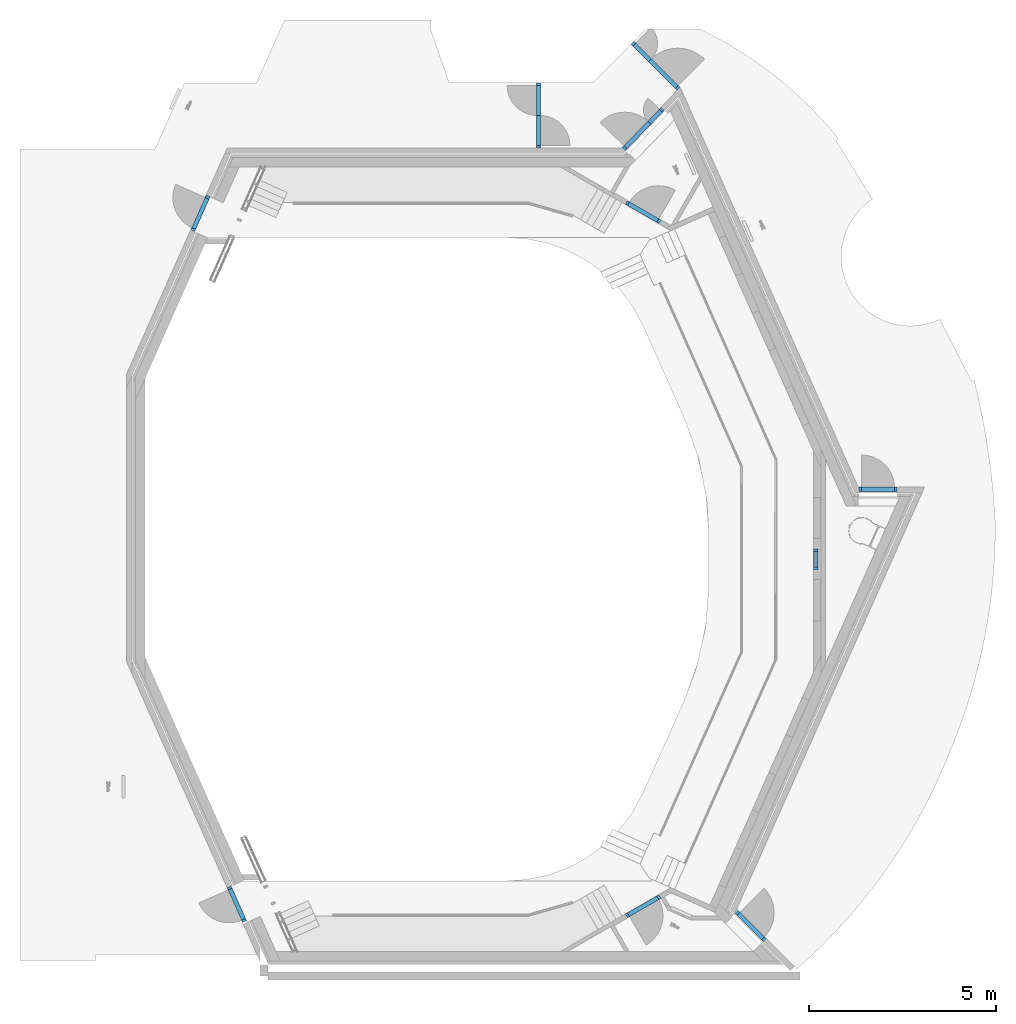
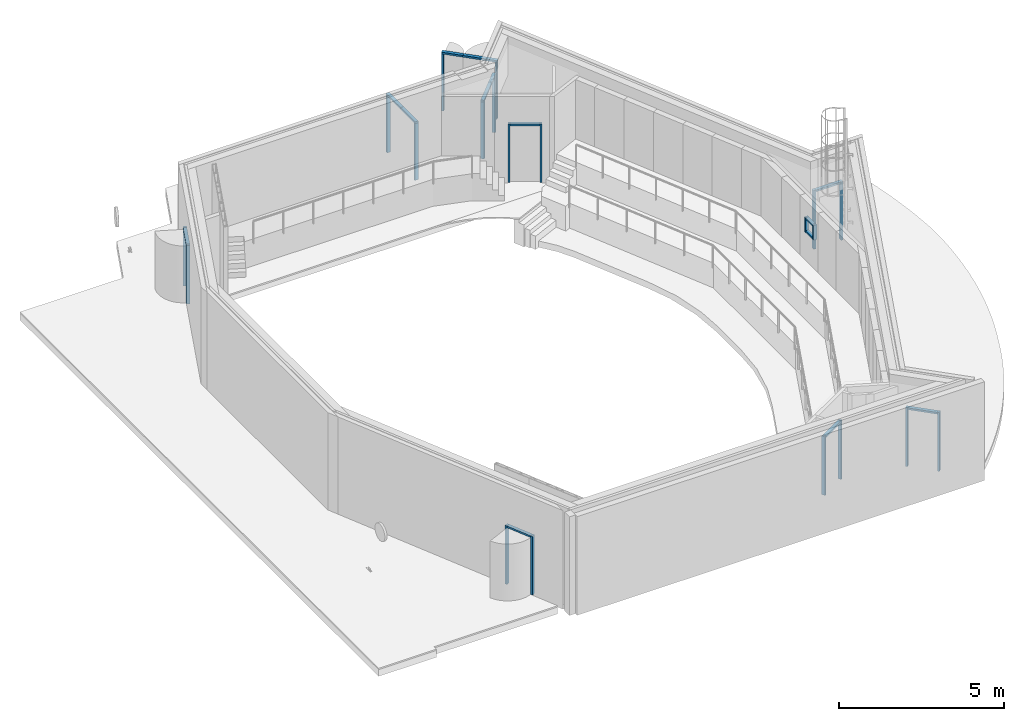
# One storey, part 3 of 16: 34 members, 10 elements without a shape of their own.
"""IFC2X3 building model written with IfcOpenShell, lengths in millimetres."""

from ifc_helpers import new_model, entity, si_unit, converted_unit, derived_unit, direction, frame, origin, origin_2d_with_axis, place, context, subcontext, project, spatial, rectangle, extrude, source, transform, mapped, material, type_object, type_shapes, element, aggregate, save


model = new_model("IFC2X3")

# Units and contexts
model_context = context("Model", 3, precision=0.01, world=origin(), true_north=direction((6.123031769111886e-17, 1.0)))
body_context = subcontext(model_context, "Body", "Model", "MODEL_VIEW")
ifc_project = project(units=[si_unit("LENGTHUNIT", "METRE", prefix="MILLI"), si_unit("AREAUNIT", "SQUARE_METRE"), si_unit("VOLUMEUNIT", "CUBIC_METRE"), converted_unit("PLANEANGLEUNIT", "DEGREE", entity("IfcRatioMeasure", 0.017453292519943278), si_unit("PLANEANGLEUNIT", "RADIAN"), dimensions=[0, 0, 0, 0, 0, 0, 0]), si_unit("MASSUNIT", "GRAM", prefix="KILO"), derived_unit("MASSDENSITYUNIT", [(si_unit("MASSUNIT", "GRAM", prefix="KILO"), 1), (si_unit("LENGTHUNIT", "METRE"), -3)]), derived_unit("MOMENTOFINERTIAUNIT", [(si_unit("LENGTHUNIT", "METRE"), 4)]), si_unit("TIMEUNIT", "SECOND"), si_unit("FREQUENCYUNIT", "HERTZ"), si_unit("THERMODYNAMICTEMPERATUREUNIT", "DEGREE_CELSIUS"), derived_unit("THERMALTRANSMITTANCEUNIT", [(si_unit("MASSUNIT", "GRAM", prefix="KILO"), 1), (si_unit("THERMODYNAMICTEMPERATUREUNIT", "KELVIN"), -1), (si_unit("TIMEUNIT", "SECOND"), -3)]), derived_unit("VOLUMETRICFLOWRATEUNIT", [(si_unit("LENGTHUNIT", "METRE"), 3), (si_unit("TIMEUNIT", "SECOND"), -1)]), derived_unit("MASSFLOWRATEUNIT", [(si_unit("MASSUNIT", "GRAM", prefix="KILO"), 1), (si_unit("TIMEUNIT", "SECOND"), -1)]), derived_unit("ROTATIONALFREQUENCYUNIT", [(si_unit("TIMEUNIT", "SECOND"), -1)]), si_unit("ELECTRICCURRENTUNIT", "AMPERE"), si_unit("ELECTRICVOLTAGEUNIT", "VOLT"), si_unit("POWERUNIT", "WATT"), si_unit("FORCEUNIT", "NEWTON", prefix="KILO"), si_unit("ILLUMINANCEUNIT", "LUX"), si_unit("LUMINOUSFLUXUNIT", "LUMEN"), si_unit("LUMINOUSINTENSITYUNIT", "CANDELA"), derived_unit("USERDEFINED", [(si_unit("MASSUNIT", "GRAM", prefix="KILO"), -1), (si_unit("LENGTHUNIT", "METRE"), -2), (si_unit("TIMEUNIT", "SECOND"), 3), (si_unit("LUMINOUSFLUXUNIT", "LUMEN"), 1)]), derived_unit("SOUNDPOWERUNIT", [(si_unit("MASSUNIT", "GRAM", prefix="KILO"), 1), (si_unit("LENGTHUNIT", "METRE"), 2), (si_unit("TIMEUNIT", "SECOND"), -3)]), derived_unit("SOUNDPRESSUREUNIT", [(si_unit("MASSUNIT", "GRAM", prefix="KILO"), 1), (si_unit("LENGTHUNIT", "METRE"), -1), (si_unit("TIMEUNIT", "SECOND"), -2)]), derived_unit("LINEARVELOCITYUNIT", [(si_unit("LENGTHUNIT", "METRE"), 1), (si_unit("TIMEUNIT", "SECOND"), -1)]), si_unit("PRESSUREUNIT", "PASCAL"), derived_unit("USERDEFINED", [(si_unit("LENGTHUNIT", "METRE"), -2), (si_unit("MASSUNIT", "GRAM", prefix="KILO"), 1), (si_unit("TIMEUNIT", "SECOND"), -2)]), derived_unit("LINEARFORCEUNIT", [(si_unit("MASSUNIT", "GRAM", prefix="KILO"), 1), (si_unit("LENGTHUNIT", "METRE"), 1), (si_unit("TIMEUNIT", "SECOND"), -2), (si_unit("LENGTHUNIT", "METRE"), -1)]), derived_unit("PLANARFORCEUNIT", [(si_unit("MASSUNIT", "GRAM", prefix="KILO"), 1), (si_unit("LENGTHUNIT", "METRE"), 1), (si_unit("TIMEUNIT", "SECOND"), -2), (si_unit("LENGTHUNIT", "METRE"), -2)])], contexts=[model_context])

# Site, building, storey
site_placement = place(None, frame((-10000.0, -10000.0, 0.0)))
site = spatial("IfcSite", under=ifc_project, at=site_placement, Name="Default", CompositionType="ELEMENT")
building_placement = place(site_placement, origin())
building = spatial("IfcBuilding", under=site, at=building_placement, CompositionType="ELEMENT")
storey_placement = place(building_placement, frame((0.0, 0.0, 9000.0)))
storey = spatial("IfcBuildingStorey", under=building, at=storey_placement, Name="02 2e verdieping", CompositionType="ELEMENT", Elevation=9000.0)

# Curtain wall, member
curtain_wall_type = type_object("IfcCurtainWallType", Name="Curtain Wall:NLRS_32_CWA_houten binnenkozijnen ts90_ags", PredefinedType="NOTDEFINED")
curtain_wall_1_placement = place(storey_placement, frame((0.0, 0.0, -9000.0)))
curtain_wall_1 = element("IfcCurtainWall", 1, at=curtain_wall_1_placement, inside=storey, type_object=curtain_wall_type, Name="Curtain Wall:NLRS_32_CWA_houten binnenkozijnen ts90_ags", ObjectType="Curtain Wall:NLRS_32_CWA_houten binnenkozijnen ts90_ags")
ifc_material = material(Name="<Unnamed>")
member_type_1 = type_object("IfcMemberType", Name="Rectangular Mullion:NLRS_32_CWM_hout 114x67_ags", PredefinedType="MULLION", material=ifc_material)
shared_shape_1 = source(origin(), body_context, "Body", "SweptSolid", [
    extrude(rectangle(XDim=114.0, YDim=67.0, at=origin_2d_with_axis()), frame((-33.5, 0.0, -2103.0), z_axis=(0.0, 0.0, 1.0), x_axis=(0.0, -1.0, 0.0)), (0.0, 0.0, 1.0), 2103.0),
])
type_shapes(member_type_1, [shared_shape_1])
member_1_placement = place(curtain_wall_1_placement, frame((39644.82794933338, 50705.0551990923, 9000.0), z_axis=(0.0, 0.0, -1.0), x_axis=(0.6943722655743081, 0.7196159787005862, 0.0)))
member_1 = element("IfcMember", 2, at=member_1_placement, type_object=member_type_1, material=ifc_material, Name="Rectangular Mullion:NLRS_32_CWM_hout 114x67_ags", ObjectType="Rectangular Mullion:NLRS_32_CWM_hout 114x67_ags", context=body_context, shape_type="MappedRepresentation", body=[
    mapped(shared_shape_1, transform((0.0, 0.0, 0.0), scale=1.0)),
])

curtain_wall_2_placement = place(storey_placement, frame((0.0, 0.0, -9000.0)))
curtain_wall_2 = element("IfcCurtainWall", 3, at=curtain_wall_2_placement, inside=storey, type_object=curtain_wall_type, Name="Curtain Wall:NLRS_32_CWA_houten binnenkozijnen ts90_ags", ObjectType="Curtain Wall:NLRS_32_CWA_houten binnenkozijnen ts90_ags")
member_2_placement = place(curtain_wall_2_placement, frame((40070.39875799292, 51245.732878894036, 9000.0), z_axis=(0.0, 0.0, -1.0), x_axis=(0.7071067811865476, -0.7071067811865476, 0.0)))
member_2 = element("IfcMember", 4, at=member_2_placement, type_object=member_type_1, material=ifc_material, Name="Rectangular Mullion:NLRS_32_CWM_hout 114x67_ags", ObjectType="Rectangular Mullion:NLRS_32_CWM_hout 114x67_ags", context=body_context, shape_type="MappedRepresentation", body=[
    mapped(shared_shape_1, transform((0.0, 0.0, 0.0), scale=1.0)),
])

curtain_wall_3_placement = place(storey_placement, frame((0.0, 0.0, -9000.0)))
curtain_wall_3 = element("IfcCurtainWall", 5, at=curtain_wall_3_placement, inside=storey, type_object=curtain_wall_type, Name="Curtain Wall:NLRS_32_CWA_houten binnenkozijnen ts90_ags", ObjectType="Curtain Wall:NLRS_32_CWA_houten binnenkozijnen ts90_ags")
member_3_placement = place(curtain_wall_3_placement, frame((36317.06459566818, 49652.0, 9000.0), z_axis=(0.0, 0.0, -1.0), x_axis=(0.0, -1.0, 0.0)))
member_3 = element("IfcMember", 6, at=member_3_placement, type_object=member_type_1, material=ifc_material, Name="Rectangular Mullion:NLRS_32_CWM_hout 114x67_ags", ObjectType="Rectangular Mullion:NLRS_32_CWM_hout 114x67_ags", context=body_context, shape_type="MappedRepresentation", body=[
    mapped(shared_shape_1, transform((0.0, 0.0, 0.0), scale=1.0)),
])

# Member
member_type_2 = type_object("IfcMemberType", Name="Rectangular Mullion:NLRS_32_CWM_hout 114x67_ags", PredefinedType="MULLION", material=ifc_material)
shared_shape_2 = source(origin(), body_context, "Body", "SweptSolid", [
    extrude(rectangle(XDim=114.0, YDim=67.0, at=origin_2d_with_axis()), frame((-33.5, 0.0, -2103.0), z_axis=(0.0, 0.0, 1.0), x_axis=(0.0, -1.0, 0.0)), (0.0, 0.0, 1.0), 2103.0000000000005),
])
type_shapes(member_type_2, [shared_shape_2])
member_4_placement = place(curtain_wall_1_placement, frame((38603.43549617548, 49625.80320913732, 11103.0), z_axis=(0.0, 0.0, 1.0), x_axis=(-0.6943722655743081, -0.7196159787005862, 0.0)))
member_4 = element("IfcMember", 7, at=member_4_placement, type_object=member_type_2, material=ifc_material, Name="Rectangular Mullion:NLRS_32_CWM_hout 114x67_ags", ObjectType="Rectangular Mullion:NLRS_32_CWM_hout 114x67_ags", context=body_context, shape_type="MappedRepresentation", body=[
    mapped(shared_shape_2, transform((0.0, 0.0, 0.0), scale=1.0)),
])

member_5_placement = place(curtain_wall_2_placement, frame((38836.03789821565, 52480.09373867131, 11103.0), z_axis=(0.0, 0.0, 1.0), x_axis=(-0.7071067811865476, 0.7071067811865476, 0.0)))
member_5 = element("IfcMember", 8, at=member_5_placement, type_object=member_type_2, material=ifc_material, Name="Rectangular Mullion:NLRS_32_CWM_hout 114x67_ags", ObjectType="Rectangular Mullion:NLRS_32_CWM_hout 114x67_ags", context=body_context, shape_type="MappedRepresentation", body=[
    mapped(shared_shape_2, transform((0.0, 0.0, 0.0), scale=1.0)),
])

member_6_placement = place(curtain_wall_3_placement, frame((36317.06459566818, 51401.995249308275, 11103.0), z_axis=(0.0, 0.0, 1.0), x_axis=(0.0, 1.0, 0.0)))
member_6 = element("IfcMember", 9, at=member_6_placement, type_object=member_type_2, material=ifc_material, Name="Rectangular Mullion:NLRS_32_CWM_hout 114x67_ags", ObjectType="Rectangular Mullion:NLRS_32_CWM_hout 114x67_ags", context=body_context, shape_type="MappedRepresentation", body=[
    mapped(shared_shape_2, transform((0.0, 0.0, 0.0), scale=1.0)),
])

# Curtain wall, member
curtain_wall_4_placement = place(storey_placement, frame((0.0, 0.0, -9000.0)))
curtain_wall_4 = element("IfcCurtainWall", 10, at=curtain_wall_4_placement, inside=storey, type_object=curtain_wall_type, Name="Curtain Wall:NLRS_32_CWA_houten binnenkozijnen ts90_ags", ObjectType="Curtain Wall:NLRS_32_CWA_houten binnenkozijnen ts90_ags")
member_type_3 = type_object("IfcMemberType", Name="Rectangular Mullion:NLRS_32_CWM_hout 114x67_ags", PredefinedType="MULLION", material=ifc_material)
shared_shape_3 = source(origin(), body_context, "Body", "SweptSolid", [
    extrude(rectangle(XDim=114.0, YDim=67.0, at=origin_2d_with_axis()), frame((-33.5, 0.0, -2170.0), z_axis=(0.0, 0.0, 1.0), x_axis=(0.0, -1.0, 0.0)), (0.0, 0.0, 1.0), 2170.0),
])
type_shapes(member_type_3, [shared_shape_3])
member_7_placement = place(curtain_wall_4_placement, frame((42379.75236599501, 28438.24830376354, 9000.0), z_axis=(0.0, 0.0, -1.0), x_axis=(0.7071067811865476, -0.7071067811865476, 0.0)))
member_7 = element("IfcMember", 11, at=member_7_placement, type_object=member_type_3, material=ifc_material, Name="Rectangular Mullion:NLRS_32_CWM_hout 114x67_ags", ObjectType="Rectangular Mullion:NLRS_32_CWM_hout 114x67_ags", context=body_context, shape_type="MappedRepresentation", body=[
    mapped(shared_shape_3, transform((0.0, 0.0, 0.0), scale=1.0)),
])

curtain_wall_5_placement = place(storey_placement, frame((0.0, 0.0, -9000.0)))
curtain_wall_5 = element("IfcCurtainWall", 12, at=curtain_wall_5_placement, inside=storey, type_object=curtain_wall_type, Name="Curtain Wall:NLRS_32_CWA_houten binnenkozijnen ts90_ags", ObjectType="Curtain Wall:NLRS_32_CWA_houten binnenkozijnen ts90_ags")
member_8_placement = place(curtain_wall_5_placement, frame((45923.57361464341, 40510.97902798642, 9000.0), z_axis=(0.0, 0.0, -1.0), x_axis=(1.0, 0.0, 0.0)))
member_8 = element("IfcMember", 13, at=member_8_placement, type_object=member_type_3, material=ifc_material, Name="Rectangular Mullion:NLRS_32_CWM_hout 114x67_ags", ObjectType="Rectangular Mullion:NLRS_32_CWM_hout 114x67_ags", context=body_context, shape_type="MappedRepresentation", body=[
    mapped(shared_shape_3, transform((0.0, 0.0, 0.0), scale=1.0)),
])

curtain_wall_6_placement = place(storey_placement, frame((0.0, 0.0, -9000.0)))
curtain_wall_6 = element("IfcCurtainWall", 14, at=curtain_wall_6_placement, inside=storey, type_object=curtain_wall_type, Name="Curtain Wall:NLRS_32_CWA_houten binnenkozijnen ts90_ags", ObjectType="Curtain Wall:NLRS_32_CWA_houten binnenkozijnen ts90_ags")
member_9_placement = place(curtain_wall_6_placement, frame((27464.487671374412, 48370.242257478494, 9000.0), z_axis=(0.0, 0.0, -1.0), x_axis=(0.40673664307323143, 0.9135454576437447, 0.0)))
member_9 = element("IfcMember", 15, at=member_9_placement, type_object=member_type_3, material=ifc_material, Name="Rectangular Mullion:NLRS_32_CWM_hout 114x67_ags", ObjectType="Rectangular Mullion:NLRS_32_CWM_hout 114x67_ags", context=body_context, shape_type="MappedRepresentation", body=[
    mapped(shared_shape_3, transform((0.0, 0.0, 0.0), scale=1.0)),
])

curtain_wall_7_placement = place(storey_placement, frame((0.0, 0.0, -9000.0)))
curtain_wall_7 = element("IfcCurtainWall", 16, at=curtain_wall_7_placement, inside=storey, type_object=curtain_wall_type, Name="Curtain Wall:NLRS_32_CWA_houten binnenkozijnen ts90_ags", ObjectType="Curtain Wall:NLRS_32_CWA_houten binnenkozijnen ts90_ags")
member_10_placement = place(curtain_wall_7_placement, frame((28026.126135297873, 29861.112561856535, 9000.0), z_axis=(0.0, 0.0, -1.0), x_axis=(-0.4067366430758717, 0.9135454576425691, 0.0)))
member_10 = element("IfcMember", 17, at=member_10_placement, type_object=member_type_3, material=ifc_material, Name="Rectangular Mullion:NLRS_32_CWM_hout 114x67_ags", ObjectType="Rectangular Mullion:NLRS_32_CWM_hout 114x67_ags", context=body_context, shape_type="MappedRepresentation", body=[
    mapped(shared_shape_3, transform((0.0, 0.0, 0.0), scale=1.0)),
])

curtain_wall_8_placement = place(storey_placement, frame((0.0, 0.0, -9000.0)))
curtain_wall_8 = element("IfcCurtainWall", 18, at=curtain_wall_8_placement, inside=storey, type_object=curtain_wall_type, Name="Curtain Wall:NLRS_32_CWA_houten binnenkozijnen ts90_ags", ObjectType="Curtain Wall:NLRS_32_CWA_houten binnenkozijnen ts90_ags")
member_11_placement = place(curtain_wall_8_placement, frame((39569.80613687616, 47677.671713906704, 9000.0), z_axis=(0.0, 0.0, -1.0), x_axis=(0.8660254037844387, -0.5000000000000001, 0.0)))
member_11 = element("IfcMember", 19, at=member_11_placement, type_object=member_type_3, material=ifc_material, Name="Rectangular Mullion:NLRS_32_CWM_hout 114x67_ags", ObjectType="Rectangular Mullion:NLRS_32_CWM_hout 114x67_ags", context=body_context, shape_type="MappedRepresentation", body=[
    mapped(shared_shape_3, transform((0.0, 0.0, 0.0), scale=1.0)),
])

# Member
member_type_4 = type_object("IfcMemberType", Name="Rectangular Mullion:NLRS_32_CWM_hout 114x67_ags", PredefinedType="MULLION", material=ifc_material)
shared_shape_4 = source(origin(), body_context, "Body", "SweptSolid", [
    extrude(rectangle(XDim=114.0, YDim=67.0, at=origin_2d_with_axis()), frame((-33.5, 0.0, -2170.0), z_axis=(0.0, 0.0, 1.0), x_axis=(0.0, -1.0, 0.0)), (0.0, 0.0, 1.0), 2170.0000000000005),
])
type_shapes(member_type_4, [shared_shape_4])
member_12_placement = place(curtain_wall_4_placement, frame((41626.68364403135, 29191.317025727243, 11170.0), z_axis=(0.0, 0.0, 1.0), x_axis=(-0.7071067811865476, 0.7071067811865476, 0.0)))
member_12 = element("IfcMember", 20, at=member_12_placement, type_object=member_type_4, material=ifc_material, Name="Rectangular Mullion:NLRS_32_CWM_hout 114x67_ags", ObjectType="Rectangular Mullion:NLRS_32_CWM_hout 114x67_ags", context=body_context, shape_type="MappedRepresentation", body=[
    mapped(shared_shape_4, transform((0.0, 0.0, 0.0), scale=1.0)),
])

member_13_placement = place(curtain_wall_5_placement, frame((44903.57361464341, 40510.97902798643, 11170.0), z_axis=(0.0, 0.0, 1.0), x_axis=(-1.0, 0.0, 0.0)))
member_13 = element("IfcMember", 21, at=member_13_placement, type_object=member_type_4, material=ifc_material, Name="Rectangular Mullion:NLRS_32_CWM_hout 114x67_ags", ObjectType="Rectangular Mullion:NLRS_32_CWM_hout 114x67_ags", context=body_context, shape_type="MappedRepresentation", body=[
    mapped(shared_shape_4, transform((0.0, 0.0, 0.0), scale=1.0)),
])

member_14_placement = place(curtain_wall_6_placement, frame((27049.61629543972, 47438.42589068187, 11170.0), z_axis=(0.0, 0.0, 1.0), x_axis=(-0.40673664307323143, -0.9135454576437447, 0.0)))
member_14 = element("IfcMember", 22, at=member_14_placement, type_object=member_type_4, material=ifc_material, Name="Rectangular Mullion:NLRS_32_CWM_hout 114x67_ags", ObjectType="Rectangular Mullion:NLRS_32_CWM_hout 114x67_ags", context=body_context, shape_type="MappedRepresentation", body=[
    mapped(shared_shape_4, transform((0.0, 0.0, 0.0), scale=1.0)),
])

member_15_placement = place(curtain_wall_7_placement, frame((28440.99751123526, 28929.296195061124, 11170.0), z_axis=(0.0, 0.0, 1.0), x_axis=(0.4067366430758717, -0.9135454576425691, 0.0)))
member_15 = element("IfcMember", 23, at=member_15_placement, type_object=member_type_4, material=ifc_material, Name="Rectangular Mullion:NLRS_32_CWM_hout 114x67_ags", ObjectType="Rectangular Mullion:NLRS_32_CWM_hout 114x67_ags", context=body_context, shape_type="MappedRepresentation", body=[
    mapped(shared_shape_4, transform((0.0, 0.0, 0.0), scale=1.0)),
])

member_16_placement = place(curtain_wall_8_placement, frame((38669.13971694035, 48197.671713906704, 11170.0), z_axis=(0.0, 0.0, 1.0), x_axis=(-0.8660254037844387, 0.5000000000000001, 0.0)))
member_16 = element("IfcMember", 24, at=member_16_placement, type_object=member_type_4, material=ifc_material, Name="Rectangular Mullion:NLRS_32_CWM_hout 114x67_ags", ObjectType="Rectangular Mullion:NLRS_32_CWM_hout 114x67_ags", context=body_context, shape_type="MappedRepresentation", body=[
    mapped(shared_shape_4, transform((0.0, 0.0, 0.0), scale=1.0)),
])

# Curtain wall, members
curtain_wall_9_placement = place(storey_placement, frame((0.0, 0.0, -9000.0)))
curtain_wall_9 = element("IfcCurtainWall", 25, at=curtain_wall_9_placement, inside=storey, type_object=curtain_wall_type, Name="Curtain Wall:NLRS_32_CWA_houten binnenkozijnen ts90_ags", ObjectType="Curtain Wall:NLRS_32_CWA_houten binnenkozijnen ts90_ags")
member_type_5 = type_object("IfcMemberType", Name="Rectangular Mullion:NLRS_32_CWM_hout 114x67_ags", PredefinedType="MULLION", material=ifc_material)
shared_shape_5 = source(origin(), body_context, "Body", "SweptSolid", [
    extrude(rectangle(XDim=114.0, YDim=67.0, at=origin_2d_with_axis()), frame((-33.5, 0.0, -906.0), z_axis=(0.0, 0.0, 1.0), x_axis=(0.0, -1.0, 0.0)), (0.0, 0.0, 1.0), 906.0000000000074),
])
type_shapes(member_type_5, [shared_shape_5])
member_17_placement = place(curtain_wall_9_placement, frame((39511.78243482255, 29565.82828548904, 11170.0), z_axis=(0.8660254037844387, 0.5000000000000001, 0.0), x_axis=(0.0, 0.0, 1.0)))
member_17 = element("IfcMember", 26, at=member_17_placement, type_object=member_type_5, material=ifc_material, Name="Rectangular Mullion:NLRS_32_CWM_hout 114x67_ags", ObjectType="Rectangular Mullion:NLRS_32_CWM_hout 114x67_ags", context=body_context, shape_type="MappedRepresentation", body=[
    mapped(shared_shape_5, transform((0.0, 0.0, 0.0), scale=1.0)),
])
member_type_6 = type_object("IfcMemberType", Name="Rectangular Mullion:NLRS_32_CWM_hout 114x67_ags", PredefinedType="MULLION", material=ifc_material)
shared_shape_6 = source(origin(), body_context, "Body", "SweptSolid", [
    extrude(rectangle(XDim=114.0, YDim=67.0, at=origin_2d_with_axis()), frame((-33.5, 0.0, -2170.0), z_axis=(0.0, 0.0, 1.0), x_axis=(0.0, -1.0, 0.0)), (0.0, 0.0, 1.0), 2170.0),
])
type_shapes(member_type_6, [shared_shape_6])
member_18_placement = place(curtain_wall_9_placement, frame((39569.80613687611, 29599.32828548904, 9000.0), z_axis=(0.0, 0.0, -1.0), x_axis=(0.8660254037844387, 0.5000000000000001, 0.0)))
member_18 = element("IfcMember", 27, at=member_18_placement, type_object=member_type_6, material=ifc_material, Name="Rectangular Mullion:NLRS_32_CWM_hout 114x67_ags", ObjectType="Rectangular Mullion:NLRS_32_CWM_hout 114x67_ags", context=body_context, shape_type="MappedRepresentation", body=[
    mapped(shared_shape_6, transform((0.0, 0.0, 0.0), scale=1.0)),
])
member_type_7 = type_object("IfcMemberType", Name="Rectangular Mullion:NLRS_32_CWM_hout 114x67_ags", PredefinedType="MULLION", material=ifc_material)
shared_shape_7 = source(origin(), body_context, "Body", "SweptSolid", [
    extrude(rectangle(XDim=114.0, YDim=67.0, at=origin_2d_with_axis()), frame((-33.5, 0.0, -2170.0), z_axis=(0.0, 0.0, 1.0), x_axis=(0.0, -1.0, 0.0)), (0.0, 0.0, 1.0), 2170.0000000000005),
])
type_shapes(member_type_7, [shared_shape_7])
member_19_placement = place(curtain_wall_9_placement, frame((38669.13971694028, 29079.32828548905, 11170.0), z_axis=(0.0, 0.0, 1.0), x_axis=(-0.8660254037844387, -0.5000000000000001, 0.0)))
member_19 = element("IfcMember", 28, at=member_19_placement, type_object=member_type_7, material=ifc_material, Name="Rectangular Mullion:NLRS_32_CWM_hout 114x67_ags", ObjectType="Rectangular Mullion:NLRS_32_CWM_hout 114x67_ags", context=body_context, shape_type="MappedRepresentation", body=[
    mapped(shared_shape_7, transform((0.0, 0.0, 0.0), scale=1.0)),
])
aggregate(curtain_wall_9, [member_17, member_18, member_19])

# Member
member_type_8 = type_object("IfcMemberType", Name="Rectangular Mullion:NLRS_32_CWM_hout 114x67_ags", PredefinedType="MULLION", material=ifc_material)
shared_shape_8 = source(origin(), body_context, "Body", "SweptSolid", [
    extrude(rectangle(XDim=114.0, YDim=67.0, at=origin_2d_with_axis()), frame((-33.5, 0.0, -886.0), z_axis=(0.0, 0.0, 1.0), x_axis=(0.0, -1.0, 0.0)), (0.0, 0.0, 1.0), 885.9999999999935),
])
type_shapes(member_type_8, [shared_shape_8])
member_20_placement = place(curtain_wall_5_placement, frame((45856.5736146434, 40510.97902798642, 11170.0), z_axis=(1.0, 0.0, 0.0), x_axis=(0.0, 0.0, 1.0)))
member_20 = element("IfcMember", 29, at=member_20_placement, type_object=member_type_8, material=ifc_material, Name="Rectangular Mullion:NLRS_32_CWM_hout 114x67_ags", ObjectType="Rectangular Mullion:NLRS_32_CWM_hout 114x67_ags", context=body_context, shape_type="MappedRepresentation", body=[
    mapped(shared_shape_8, transform((0.0, 0.0, 0.0), scale=1.0)),
])

aggregate(curtain_wall_5, [member_20, member_8, member_13])

member_21_placement = place(curtain_wall_6_placement, frame((27437.2363162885, 48309.03471181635, 11170.0), z_axis=(0.40673664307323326, 0.9135454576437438, 0.0), x_axis=(0.0, 0.0, 1.0)))
member_21 = element("IfcMember", 30, at=member_21_placement, type_object=member_type_8, material=ifc_material, Name="Rectangular Mullion:NLRS_32_CWM_hout 114x67_ags", ObjectType="Rectangular Mullion:NLRS_32_CWM_hout 114x67_ags", context=body_context, shape_type="MappedRepresentation", body=[
    mapped(shared_shape_8, transform((0.0, 0.0, 0.0), scale=1.0)),
])

aggregate(curtain_wall_6, [member_21, member_9, member_14])

member_22_placement = place(curtain_wall_7_placement, frame((28053.377490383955, 29799.905016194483, 11170.0), z_axis=(-0.4067366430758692, 0.9135454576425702, 0.0), x_axis=(0.0, 0.0, 1.0)))
member_22 = element("IfcMember", 31, at=member_22_placement, type_object=member_type_8, material=ifc_material, Name="Rectangular Mullion:NLRS_32_CWM_hout 114x67_ags", ObjectType="Rectangular Mullion:NLRS_32_CWM_hout 114x67_ags", context=body_context, shape_type="MappedRepresentation", body=[
    mapped(shared_shape_8, transform((0.0, 0.0, 0.0), scale=1.0)),
])

aggregate(curtain_wall_7, [member_22, member_10, member_15])

member_type_9 = type_object("IfcMemberType", Name="Rectangular Mullion:NLRS_32_CWM_hout 114x67_ags", PredefinedType="MULLION", material=ifc_material)
shared_shape_9 = source(origin(), body_context, "Body", "SweptSolid", [
    extrude(rectangle(XDim=114.0, YDim=67.0, at=origin_2d_with_axis()), frame((-33.5, 0.0, -906.0), z_axis=(0.0, 0.0, 1.0), x_axis=(0.0, -1.0, 0.0)), (0.0, 0.0, 1.0), 905.9999999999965),
])
type_shapes(member_type_9, [shared_shape_9])
member_23_placement = place(curtain_wall_8_placement, frame((39511.782434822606, 47711.171713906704, 11170.0), z_axis=(0.8660254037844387, -0.5000000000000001, 0.0), x_axis=(0.0, 0.0, 1.0)))
member_23 = element("IfcMember", 32, at=member_23_placement, type_object=member_type_9, material=ifc_material, Name="Rectangular Mullion:NLRS_32_CWM_hout 114x67_ags", ObjectType="Rectangular Mullion:NLRS_32_CWM_hout 114x67_ags", context=body_context, shape_type="MappedRepresentation", body=[
    mapped(shared_shape_9, transform((0.0, 0.0, 0.0), scale=1.0)),
])

aggregate(curtain_wall_8, [member_23, member_11, member_16])

member_type_10 = type_object("IfcMemberType", Name="Rectangular Mullion:NLRS_32_CWM_hout 114x67_ags", PredefinedType="MULLION", material=ifc_material)
shared_shape_10 = source(origin(), body_context, "Body", "SweptSolid", [
    extrude(rectangle(XDim=114.0, YDim=67.0, at=origin_2d_with_axis()), frame((-33.5, 0.0, -931.0), z_axis=(0.0, 0.0, 1.0), x_axis=(0.0, -1.0, 0.0)), (0.0, 0.0, 1.0), 931.0000000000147),
])
type_shapes(member_type_10, [shared_shape_10])
member_24_placement = place(curtain_wall_4_placement, frame((42332.37621165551, 28485.62445810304, 11170.0), z_axis=(0.7071067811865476, -0.7071067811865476, 0.0), x_axis=(0.0, 0.0, 1.0)))
member_24 = element("IfcMember", 33, at=member_24_placement, type_object=member_type_10, material=ifc_material, Name="Rectangular Mullion:NLRS_32_CWM_hout 114x67_ags", ObjectType="Rectangular Mullion:NLRS_32_CWM_hout 114x67_ags", context=body_context, shape_type="MappedRepresentation", body=[
    mapped(shared_shape_10, transform((0.0, 0.0, 0.0), scale=1.0)),
])

aggregate(curtain_wall_4, [member_24, member_7, member_12])

member_type_11 = type_object("IfcMemberType", Name="Rectangular Mullion:NLRS_32_CWM_hout 114x67_ags", PredefinedType="MULLION", material=ifc_material)
shared_shape_11 = source(origin(), body_context, "Body", "SweptSolid", [
    extrude(rectangle(XDim=114.0, YDim=67.0, at=origin_2d_with_axis()), frame((-33.5, 0.0, -875.0), z_axis=(0.0, 0.0, 1.0), x_axis=(0.0, -1.0, 0.0)), (0.0, 0.0, 1.0), 875.0000000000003),
])
type_shapes(member_type_11, [shared_shape_11])
member_25_placement = place(curtain_wall_3_placement, frame((36317.06459566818, 49652.0, 11170.0), z_axis=(0.0, -1.0, 0.0), x_axis=(0.0, 0.0, 1.0)))
member_25 = element("IfcMember", 34, at=member_25_placement, type_object=member_type_11, material=ifc_material, Name="Rectangular Mullion:NLRS_32_CWM_hout 114x67_ags", ObjectType="Rectangular Mullion:NLRS_32_CWM_hout 114x67_ags", context=body_context, shape_type="MappedRepresentation", body=[
    mapped(shared_shape_11, transform((0.0, 0.0, 0.0), scale=1.0)),
])

member_type_12 = type_object("IfcMemberType", Name="Rectangular Mullion:NLRS_32_CWM_hout 114x67_ags", PredefinedType="MULLION", material=ifc_material)
shared_shape_12 = source(origin(), body_context, "Body", "SweptSolid", [
    extrude(rectangle(XDim=114.0, YDim=67.0, at=origin_2d_with_axis()), frame((-33.5, 0.0, -874.9952493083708), z_axis=(0.0, 0.0, 1.0), x_axis=(0.0, -1.0, 0.0)), (0.0, 0.0, 1.0), 874.9952493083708),
])
type_shapes(member_type_12, [shared_shape_12])
member_26_placement = place(curtain_wall_3_placement, frame((36317.06459566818, 50527.0, 11170.0), z_axis=(0.0, -1.0, 0.0), x_axis=(0.0, 0.0, 1.0)))
member_26 = element("IfcMember", 35, at=member_26_placement, type_object=member_type_12, material=ifc_material, Name="Rectangular Mullion:NLRS_32_CWM_hout 114x67_ags", ObjectType="Rectangular Mullion:NLRS_32_CWM_hout 114x67_ags", context=body_context, shape_type="MappedRepresentation", body=[
    mapped(shared_shape_12, transform((0.0, 0.0, 0.0), scale=1.0)),
])

aggregate(curtain_wall_3, [member_25, member_3, member_6, member_26])

member_type_13 = type_object("IfcMemberType", Name="Rectangular Mullion:NLRS_32_CWM_hout 114x67_ags", PredefinedType="MULLION", material=ifc_material)
shared_shape_13 = source(origin(), body_context, "Body", "SweptSolid", [
    extrude(rectangle(XDim=114.0, YDim=67.0, at=origin_2d_with_axis()), frame((-33.5, 0.0, -514.7610140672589), z_axis=(0.0, 0.0, 1.0), x_axis=(0.0, -1.0, 0.0)), (0.0, 0.0, 1.0), 514.7610140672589),
])
type_shapes(member_type_13, [shared_shape_13])
member_27_placement = place(curtain_wall_1_placement, frame((39644.82794933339, 50705.055199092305, 11170.0), z_axis=(0.694372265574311, 0.7196159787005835, 0.0), x_axis=(0.0, 0.0, 1.0)))
member_27 = element("IfcMember", 36, at=member_27_placement, type_object=member_type_13, material=ifc_material, Name="Rectangular Mullion:NLRS_32_CWM_hout 114x67_ags", ObjectType="Rectangular Mullion:NLRS_32_CWM_hout 114x67_ags", context=body_context, shape_type="MappedRepresentation", body=[
    mapped(shared_shape_13, transform((0.0, 0.0, 0.0), scale=1.0)),
])

member_type_14 = type_object("IfcMemberType", Name="Rectangular Mullion:NLRS_32_CWM_hout 114x67_ags", PredefinedType="MULLION", material=ifc_material)
shared_shape_14 = source(origin(), body_context, "Body", "SweptSolid", [
    extrude(rectangle(XDim=114.0, YDim=67.0, at=origin_2d_with_axis()), frame((-33.5, 0.0, -985.0), z_axis=(0.0, 0.0, 1.0), x_axis=(0.0, -1.0, 0.0)), (0.0, 0.0, 1.0), 985.0000000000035),
])
type_shapes(member_type_14, [shared_shape_14])
member_28_placement = place(curtain_wall_1_placement, frame((39287.39217776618, 50334.62494815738, 11170.0), z_axis=(0.6943722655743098, 0.7196159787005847, 0.0), x_axis=(0.0, 0.0, 1.0)))
member_28 = element("IfcMember", 37, at=member_28_placement, type_object=member_type_14, material=ifc_material, Name="Rectangular Mullion:NLRS_32_CWM_hout 114x67_ags", ObjectType="Rectangular Mullion:NLRS_32_CWM_hout 114x67_ags", context=body_context, shape_type="MappedRepresentation", body=[
    mapped(shared_shape_14, transform((0.0, 0.0, 0.0), scale=1.0)),
])

aggregate(curtain_wall_1, [member_27, member_1, member_4, member_28])

member_type_15 = type_object("IfcMemberType", Name="Rectangular Mullion:NLRS_32_CWM_hout 114x67_ags", PredefinedType="MULLION", material=ifc_material)
shared_shape_15 = source(origin(), body_context, "Body", "SweptSolid", [
    extrude(rectangle(XDim=114.0, YDim=67.0, at=origin_2d_with_axis()), frame((-33.5, 0.0, -1080.0), z_axis=(0.0, 0.0, 1.0), x_axis=(0.0, -1.0, 0.0)), (0.0, 0.0, 1.0), 1080.0000000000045),
])
type_shapes(member_type_15, [shared_shape_15])
member_29_placement = place(curtain_wall_2_placement, frame((40070.39875799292, 51245.732878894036, 11170.0), z_axis=(0.7071067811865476, -0.7071067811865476, 0.0), x_axis=(0.0, 0.0, 1.0)))
member_29 = element("IfcMember", 38, at=member_29_placement, type_object=member_type_15, material=ifc_material, Name="Rectangular Mullion:NLRS_32_CWM_hout 114x67_ags", ObjectType="Rectangular Mullion:NLRS_32_CWM_hout 114x67_ags", context=body_context, shape_type="MappedRepresentation", body=[
    mapped(shared_shape_15, transform((0.0, 0.0, 0.0), scale=1.0)),
])

member_type_16 = type_object("IfcMemberType", Name="Rectangular Mullion:NLRS_32_CWM_hout 114x67_ags", PredefinedType="MULLION", material=ifc_material)
shared_shape_16 = source(origin(), body_context, "Body", "SweptSolid", [
    extrude(rectangle(XDim=114.0, YDim=67.0, at=origin_2d_with_axis()), frame((-33.5, 0.0, -665.6498687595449), z_axis=(0.0, 0.0, 1.0), x_axis=(0.0, -1.0, 0.0)), (0.0, 0.0, 1.0), 665.6498687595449),
])
type_shapes(member_type_16, [shared_shape_16])
member_30_placement = place(curtain_wall_2_placement, frame((39306.723434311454, 52009.408202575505, 11170.0), z_axis=(0.7071067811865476, -0.7071067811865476, 0.0), x_axis=(0.0, 0.0, 1.0)))
member_30 = element("IfcMember", 39, at=member_30_placement, type_object=member_type_16, material=ifc_material, Name="Rectangular Mullion:NLRS_32_CWM_hout 114x67_ags", ObjectType="Rectangular Mullion:NLRS_32_CWM_hout 114x67_ags", context=body_context, shape_type="MappedRepresentation", body=[
    mapped(shared_shape_16, transform((0.0, 0.0, 0.0), scale=1.0)),
])

aggregate(curtain_wall_2, [member_29, member_2, member_5, member_30])

# Curtain wall, members
curtain_wall_10_placement = place(storey_placement, frame((0.0, 0.0, -9000.0)))
curtain_wall_10 = element("IfcCurtainWall", 40, at=curtain_wall_10_placement, inside=storey, type_object=curtain_wall_type, Name="Curtain Wall:NLRS_32_CWA_houten binnenkozijnen ts90_ags", ObjectType="Curtain Wall:NLRS_32_CWA_houten binnenkozijnen ts90_ags")
member_type_17 = type_object("IfcMemberType", Name="Rectangular Mullion:NLRS_32_CWM_hout 114x67_ags", PredefinedType="MULLION", material=ifc_material)
shared_shape_17 = source(origin(), body_context, "Body", "SweptSolid", [
    extrude(rectangle(XDim=114.0, YDim=67.0, at=origin_2d_with_axis()), frame((-33.5, 0.0, -416.0), z_axis=(0.0, 0.0, 1.0), x_axis=(0.0, -1.0, 0.0)), (0.0, 0.0, 1.0), 415.99999999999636),
])
type_shapes(member_type_17, [shared_shape_17])
member_31_placement = place(curtain_wall_10_placement, frame((43742.0, 38430.49999969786, 11580.0), z_axis=(0.0, -1.0, 0.0), x_axis=(0.0, 0.0, 1.0)))
member_31 = element("IfcMember", 41, at=member_31_placement, type_object=member_type_17, material=ifc_material, Name="Rectangular Mullion:NLRS_32_CWM_hout 114x67_ags", ObjectType="Rectangular Mullion:NLRS_32_CWM_hout 114x67_ags", context=body_context, shape_type="MappedRepresentation", body=[
    mapped(shared_shape_17, transform((0.0, 0.0, 0.0), scale=1.0)),
])
member_type_18 = type_object("IfcMemberType", Name="Rectangular Mullion:NLRS_32_CWM_hout 114x67_ags", PredefinedType="MULLION", material=ifc_material)
shared_shape_18 = source(origin(), body_context, "Body", "SweptSolid", [
    extrude(rectangle(XDim=114.0, YDim=67.0, at=origin_2d_with_axis()), frame((-33.5, 0.0, -416.0), z_axis=(0.0, 0.0, 1.0), x_axis=(0.0, -1.0, 0.0)), (0.0, 0.0, 1.0), 415.99999999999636),
])
type_shapes(member_type_18, [shared_shape_18])
member_32_placement = place(curtain_wall_10_placement, frame((43742.0, 38846.49999969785, 11030.0), z_axis=(0.0, 1.0, 0.0), x_axis=(0.0, 0.0, -1.0)))
member_32 = element("IfcMember", 42, at=member_32_placement, type_object=member_type_18, material=ifc_material, Name="Rectangular Mullion:NLRS_32_CWM_hout 114x67_ags", ObjectType="Rectangular Mullion:NLRS_32_CWM_hout 114x67_ags", context=body_context, shape_type="MappedRepresentation", body=[
    mapped(shared_shape_18, transform((0.0, 0.0, 0.0), scale=1.0)),
])
member_type_19 = type_object("IfcMemberType", Name="Rectangular Mullion:NLRS_32_CWM_hout 114x67_ags", PredefinedType="MULLION", material=ifc_material)
shared_shape_19 = source(origin(), body_context, "Body", "SweptSolid", [
    extrude(rectangle(XDim=114.0, YDim=67.0, at=origin_2d_with_axis()), frame((-33.5, 0.0, -550.0), z_axis=(0.0, 0.0, 1.0), x_axis=(0.0, -1.0, 0.0)), (0.0, 0.0, 1.0), 550.0000000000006),
])
type_shapes(member_type_19, [shared_shape_19])
member_33_placement = place(curtain_wall_10_placement, frame((43742.0, 38363.49999969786, 11030.0), z_axis=(0.0, 0.0, -1.0), x_axis=(0.0, -1.0, 0.0)))
member_33 = element("IfcMember", 43, at=member_33_placement, type_object=member_type_19, material=ifc_material, Name="Rectangular Mullion:NLRS_32_CWM_hout 114x67_ags", ObjectType="Rectangular Mullion:NLRS_32_CWM_hout 114x67_ags", context=body_context, shape_type="MappedRepresentation", body=[
    mapped(shared_shape_19, transform((0.0, 0.0, 0.0), scale=1.0)),
])
member_type_20 = type_object("IfcMemberType", Name="Rectangular Mullion:NLRS_32_CWM_hout 114x67_ags", PredefinedType="MULLION", material=ifc_material)
shared_shape_20 = source(origin(), body_context, "Body", "SweptSolid", [
    extrude(rectangle(XDim=114.0, YDim=67.0, at=origin_2d_with_axis()), frame((-33.5, 0.0, -550.0), z_axis=(0.0, 0.0, 1.0), x_axis=(0.0, -1.0, 0.0)), (0.0, 0.0, 1.0), 550.0000000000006),
])
type_shapes(member_type_20, [shared_shape_20])
member_34_placement = place(curtain_wall_10_placement, frame((43742.0, 38913.49999969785, 11580.0), z_axis=(0.0, 0.0, 1.0), x_axis=(0.0, 1.0, 0.0)))
member_34 = element("IfcMember", 44, at=member_34_placement, type_object=member_type_20, material=ifc_material, Name="Rectangular Mullion:NLRS_32_CWM_hout 114x67_ags", ObjectType="Rectangular Mullion:NLRS_32_CWM_hout 114x67_ags", context=body_context, shape_type="MappedRepresentation", body=[
    mapped(shared_shape_20, transform((0.0, 0.0, 0.0), scale=1.0)),
])
aggregate(curtain_wall_10, [member_31, member_32, member_33, member_34])

save(model, "model.ifc")
